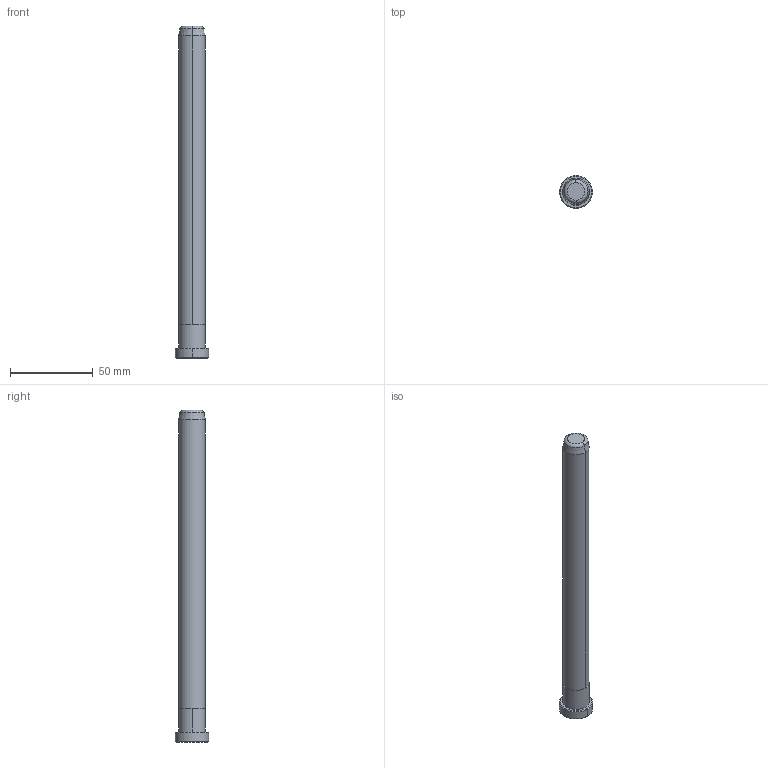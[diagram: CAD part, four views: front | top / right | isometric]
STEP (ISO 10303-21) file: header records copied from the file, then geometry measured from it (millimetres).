
FILE_DESCRIPTION((''),'2;1');
FILE_NAME('B80816200','2018-01-06T',('MANU'),(''),'PRO/ENGINEER BY PARAMETRIC TECHNOLOGY CORPORATION, 2012130','PRO/ENGINEER BY PARAMETRIC TECHNOLOGY CORPORATION, 2012130','');
FILE_SCHEMA(('CONFIG_CONTROL_DESIGN'));
Length unit declared in the file: millimetre
Products named in the file (1): B80816200
Bounding box: 20 x 20 x 200 mm (x, y, z)
Volume: 40706.5 mm3; surface area: 10629 mm2
Topology: 1 solids, 1 shells, 18 faces, 34 edges, 20 vertices
Faces by surface type: cone 6, cylinder 6, plane 4, torus 2
Entity records: 494 total; most frequent: DIRECTION 92, CARTESIAN_POINT 72, ORIENTED_EDGE 68, AXIS2_PLACEMENT_3D 40, EDGE_CURVE 34, CIRCLE 22, VERTEX_POINT 20, EDGE_LOOP 20
